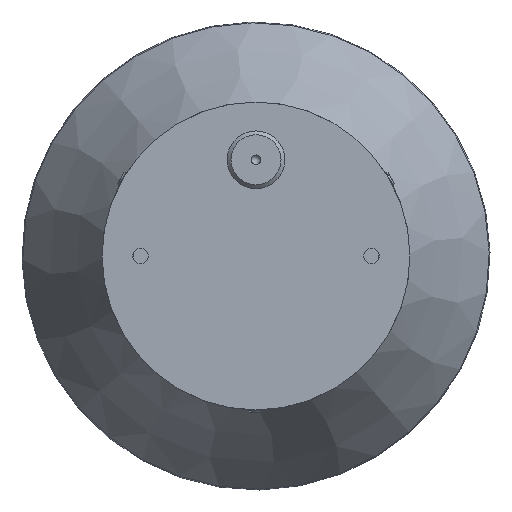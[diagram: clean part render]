
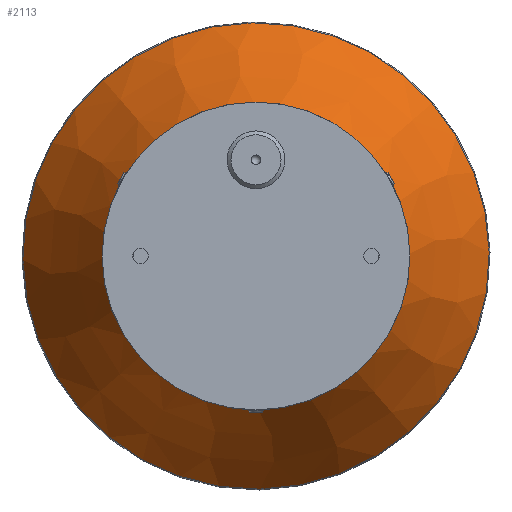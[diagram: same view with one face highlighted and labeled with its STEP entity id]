
A CAD part, front view. The second image highlights one B-rep face of the part: STEP entity #2113.
In plain terms, the highlighted conical face has half-angle 31.43 degrees and reference radius 40 mm.
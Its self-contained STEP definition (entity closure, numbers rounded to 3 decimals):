
#263 = DIRECTION ( 'NONE',  ( 0., 0., -1. ) ) ;
#483 = EDGE_LOOP ( 'NONE', ( #782 ) ) ;
#506 = DIRECTION ( 'NONE',  ( 0., -1., 0. ) ) ;
#541 = CARTESIAN_POINT ( 'NONE',  ( 0., 43.718, 0. ) ) ;
#581 = EDGE_LOOP ( 'NONE', ( #1041 ) ) ;
#635 = AXIS2_PLACEMENT_3D ( 'NONE', #541, #506, #1311 ) ;
#642 = AXIS2_PLACEMENT_3D ( 'NONE', #2039, #1831, #263 ) ;
#782 = ORIENTED_EDGE ( 'NONE', *, *, #2108, .F. ) ;
#1041 = ORIENTED_EDGE ( 'NONE', *, *, #1111, .T. ) ;
#1111 = EDGE_CURVE ( 'NONE', #3012, #3012, #1670, .T. ) ;
#1192 = AXIS2_PLACEMENT_3D ( 'NONE', #2340, #3327, #2103 ) ;
#1311 = DIRECTION ( 'NONE',  ( 0., 0., -1. ) ) ;
#1469 = CONICAL_SURFACE ( 'NONE', #1192, 40., 0.549 ) ;
#1662 = CARTESIAN_POINT ( 'NONE',  ( 0., 43.718, -60.605 ) ) ;
#1670 = CIRCLE ( 'NONE', #635, 60.605 ) ;
#1816 = FACE_BOUND ( 'NONE', #483, .T. ) ;
#1831 = DIRECTION ( 'NONE',  ( 0., -1., 0. ) ) ;
#2039 = CARTESIAN_POINT ( 'NONE',  ( 0., 10., 0. ) ) ;
#2040 = VERTEX_POINT ( 'NONE', #2306 ) ;
#2103 = DIRECTION ( 'NONE',  ( 0., 0., 1. ) ) ;
#2108 = EDGE_CURVE ( 'NONE', #2040, #2040, #2966, .T. ) ;
#2113 = ADVANCED_FACE ( 'NONE', ( #2321, #1816 ), #1469, .T. ) ;
#2306 = CARTESIAN_POINT ( 'NONE',  ( 0., 10., -40. ) ) ;
#2321 = FACE_OUTER_BOUND ( 'NONE', #581, .T. ) ;
#2340 = CARTESIAN_POINT ( 'NONE',  ( 0., 10., 0. ) ) ;
#2966 = CIRCLE ( 'NONE', #642, 40. ) ;
#3012 = VERTEX_POINT ( 'NONE', #1662 ) ;
#3327 = DIRECTION ( 'NONE',  ( 0., 1., 0. ) ) ;
